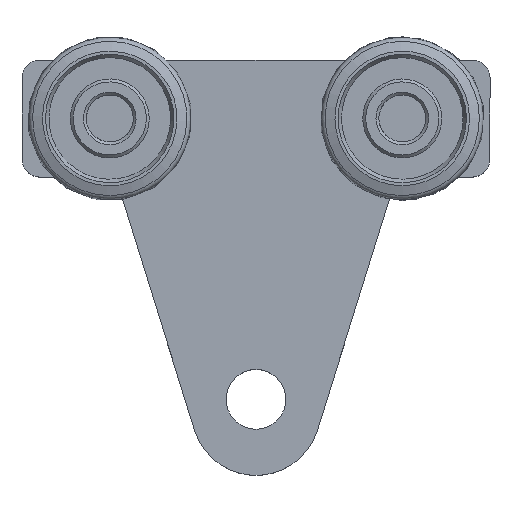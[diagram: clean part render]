
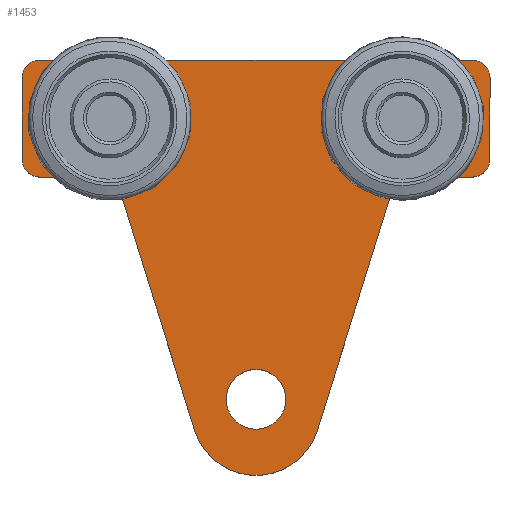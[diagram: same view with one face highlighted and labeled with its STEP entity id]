
A CAD part, top view. The second image highlights one B-rep face of the part: STEP entity #1453.
In plain terms, the highlighted planar face has unit normal (0, 0, 1).
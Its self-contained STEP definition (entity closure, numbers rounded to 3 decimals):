
#115=PLANE('',#1570);
#155=LINE('',#2161,#265);
#159=LINE('',#2172,#269);
#161=LINE('',#2177,#271);
#166=LINE('',#2191,#276);
#171=LINE('',#2209,#281);
#175=LINE('',#2221,#285);
#179=LINE('',#2233,#289);
#183=LINE('',#2245,#293);
#187=LINE('',#2257,#297);
#191=LINE('',#2269,#301);
#195=LINE('',#2280,#305);
#265=VECTOR('',#1710,2.222);
#269=VECTOR('',#1722,2.222);
#271=VECTOR('',#1726,2.222);
#276=VECTOR('',#1739,2.222);
#281=VECTOR('',#1758,10.061);
#285=VECTOR('',#1770,42.388);
#289=VECTOR('',#1782,42.388);
#293=VECTOR('',#1794,10.061);
#297=VECTOR('',#1806,14.);
#301=VECTOR('',#1818,74.);
#305=VECTOR('',#1830,14.);
#377=FACE_BOUND('',#519,.T.);
#378=FACE_BOUND('',#520,.T.);
#379=FACE_BOUND('',#521,.T.);
#426=FACE_OUTER_BOUND('',#518,.T.);
#518=EDGE_LOOP('',(#1129,#1130,#1131,#1132,#1133,#1134,#1135,#1136,#1137,
#1138,#1139,#1140,#1141,#1142));
#519=EDGE_LOOP('',(#1143));
#520=EDGE_LOOP('',(#1144,#1145,#1146,#1147));
#521=EDGE_LOOP('',(#1148,#1149,#1150,#1151));
#608=CIRCLE('',#1524,5.1);
#609=CIRCLE('',#1526,4.15);
#611=CIRCLE('',#1530,6.1);
#613=CIRCLE('',#1535,6.1);
#615=CIRCLE('',#1539,4.15);
#617=CIRCLE('',#1542,3.);
#619=CIRCLE('',#1546,4.);
#621=CIRCLE('',#1550,11.);
#623=CIRCLE('',#1554,4.);
#625=CIRCLE('',#1558,3.);
#627=CIRCLE('',#1562,3.);
#629=CIRCLE('',#1566,3.);
#682=VERTEX_POINT('',#2148);
#683=VERTEX_POINT('',#2151);
#684=VERTEX_POINT('',#2152);
#687=VERTEX_POINT('',#2160);
#689=VERTEX_POINT('',#2166);
#691=VERTEX_POINT('',#2175);
#692=VERTEX_POINT('',#2176);
#695=VERTEX_POINT('',#2184);
#697=VERTEX_POINT('',#2190);
#699=VERTEX_POINT('',#2199);
#700=VERTEX_POINT('',#2200);
#703=VERTEX_POINT('',#2208);
#705=VERTEX_POINT('',#2214);
#707=VERTEX_POINT('',#2220);
#709=VERTEX_POINT('',#2226);
#711=VERTEX_POINT('',#2232);
#713=VERTEX_POINT('',#2238);
#715=VERTEX_POINT('',#2244);
#717=VERTEX_POINT('',#2250);
#719=VERTEX_POINT('',#2256);
#721=VERTEX_POINT('',#2262);
#723=VERTEX_POINT('',#2268);
#725=VERTEX_POINT('',#2274);
#820=EDGE_CURVE('',#682,#682,#608,.T.);
#821=EDGE_CURVE('',#683,#684,#609,.T.);
#825=EDGE_CURVE('',#684,#687,#155,.T.);
#828=EDGE_CURVE('',#687,#689,#611,.T.);
#831=EDGE_CURVE('',#689,#683,#159,.T.);
#833=EDGE_CURVE('',#691,#692,#161,.T.);
#837=EDGE_CURVE('',#692,#695,#613,.T.);
#840=EDGE_CURVE('',#695,#697,#166,.T.);
#843=EDGE_CURVE('',#697,#691,#615,.T.);
#845=EDGE_CURVE('',#699,#700,#617,.T.);
#849=EDGE_CURVE('',#700,#703,#171,.T.);
#852=EDGE_CURVE('',#703,#705,#619,.T.);
#855=EDGE_CURVE('',#705,#707,#175,.T.);
#858=EDGE_CURVE('',#707,#709,#621,.T.);
#861=EDGE_CURVE('',#709,#711,#179,.T.);
#864=EDGE_CURVE('',#711,#713,#623,.T.);
#867=EDGE_CURVE('',#713,#715,#183,.T.);
#870=EDGE_CURVE('',#715,#717,#625,.T.);
#873=EDGE_CURVE('',#717,#719,#187,.T.);
#876=EDGE_CURVE('',#719,#721,#627,.T.);
#879=EDGE_CURVE('',#721,#723,#191,.T.);
#882=EDGE_CURVE('',#723,#725,#629,.T.);
#885=EDGE_CURVE('',#725,#699,#195,.T.);
#1129=ORIENTED_EDGE('',*,*,#845,.F.);
#1130=ORIENTED_EDGE('',*,*,#885,.F.);
#1131=ORIENTED_EDGE('',*,*,#882,.F.);
#1132=ORIENTED_EDGE('',*,*,#879,.F.);
#1133=ORIENTED_EDGE('',*,*,#876,.F.);
#1134=ORIENTED_EDGE('',*,*,#873,.F.);
#1135=ORIENTED_EDGE('',*,*,#870,.F.);
#1136=ORIENTED_EDGE('',*,*,#867,.F.);
#1137=ORIENTED_EDGE('',*,*,#864,.F.);
#1138=ORIENTED_EDGE('',*,*,#861,.F.);
#1139=ORIENTED_EDGE('',*,*,#858,.F.);
#1140=ORIENTED_EDGE('',*,*,#855,.F.);
#1141=ORIENTED_EDGE('',*,*,#852,.F.);
#1142=ORIENTED_EDGE('',*,*,#849,.F.);
#1143=ORIENTED_EDGE('',*,*,#820,.T.);
#1144=ORIENTED_EDGE('',*,*,#821,.T.);
#1145=ORIENTED_EDGE('',*,*,#825,.T.);
#1146=ORIENTED_EDGE('',*,*,#828,.T.);
#1147=ORIENTED_EDGE('',*,*,#831,.T.);
#1148=ORIENTED_EDGE('',*,*,#833,.T.);
#1149=ORIENTED_EDGE('',*,*,#837,.T.);
#1150=ORIENTED_EDGE('',*,*,#840,.T.);
#1151=ORIENTED_EDGE('',*,*,#843,.T.);
#1453=ADVANCED_FACE('',(#426,#377,#378,#379),#115,.T.);
#1524=AXIS2_PLACEMENT_3D('',#2149,#1698,#1699);
#1526=AXIS2_PLACEMENT_3D('',#2153,#1702,#1703);
#1530=AXIS2_PLACEMENT_3D('',#2167,#1715,#1716);
#1535=AXIS2_PLACEMENT_3D('',#2185,#1732,#1733);
#1539=AXIS2_PLACEMENT_3D('',#2196,#1744,#1745);
#1542=AXIS2_PLACEMENT_3D('',#2201,#1750,#1751);
#1546=AXIS2_PLACEMENT_3D('',#2215,#1763,#1764);
#1550=AXIS2_PLACEMENT_3D('',#2227,#1775,#1776);
#1554=AXIS2_PLACEMENT_3D('',#2239,#1787,#1788);
#1558=AXIS2_PLACEMENT_3D('',#2251,#1799,#1800);
#1562=AXIS2_PLACEMENT_3D('',#2263,#1811,#1812);
#1566=AXIS2_PLACEMENT_3D('',#2275,#1823,#1824);
#1570=AXIS2_PLACEMENT_3D('',#2283,#1834,#1835);
#1698=DIRECTION('center_axis',(0.,0.,-1.));
#1699=DIRECTION('ref_axis',(1.,0.,0.));
#1702=DIRECTION('center_axis',(0.,0.,-1.));
#1703=DIRECTION('ref_axis',(-0.81,0.587,0.));
#1710=DIRECTION('',(-0.866,0.5,0.));
#1715=DIRECTION('center_axis',(0.,0.,-1.));
#1716=DIRECTION('ref_axis',(0.866,0.499,0.));
#1722=DIRECTION('',(-0.866,-0.5,0.));
#1726=DIRECTION('',(-0.866,0.5,0.));
#1732=DIRECTION('center_axis',(0.,0.,-1.));
#1733=DIRECTION('ref_axis',(-0.866,-0.499,0.));
#1739=DIRECTION('',(-0.866,-0.5,0.));
#1744=DIRECTION('center_axis',(0.,0.,-1.));
#1745=DIRECTION('ref_axis',(0.81,-0.587,0.));
#1750=DIRECTION('center_axis',(0.,0.,-1.));
#1751=DIRECTION('ref_axis',(0.,1.,0.));
#1758=DIRECTION('',(1.,0.,0.));
#1763=DIRECTION('center_axis',(0.,0.,1.));
#1764=DIRECTION('ref_axis',(0.,1.,0.));
#1770=DIRECTION('',(0.298,0.955,0.));
#1775=DIRECTION('center_axis',(0.,0.,-1.));
#1776=DIRECTION('ref_axis',(0.955,0.298,0.));
#1782=DIRECTION('',(0.298,-0.955,0.));
#1787=DIRECTION('center_axis',(0.,0.,1.));
#1788=DIRECTION('ref_axis',(0.955,0.298,0.));
#1794=DIRECTION('',(1.,0.,0.));
#1799=DIRECTION('center_axis',(0.,0.,-1.));
#1800=DIRECTION('ref_axis',(1.,0.,0.));
#1806=DIRECTION('',(0.,-1.,0.));
#1811=DIRECTION('center_axis',(0.,0.,-1.));
#1812=DIRECTION('ref_axis',(0.,-1.,0.));
#1818=DIRECTION('',(-1.,0.,0.));
#1823=DIRECTION('center_axis',(0.,0.,-1.));
#1824=DIRECTION('ref_axis',(-1.,0.,0.));
#1830=DIRECTION('',(0.,1.,0.));
#1834=DIRECTION('center_axis',(0.,0.,1.));
#1835=DIRECTION('ref_axis',(1.,0.,0.));
#2148=CARTESIAN_POINT('',(5.1,48.,5.));
#2149=CARTESIAN_POINT('Origin',(0.,48.,5.));
#2151=CARTESIAN_POINT('',(28.361,2.435,5.));
#2152=CARTESIAN_POINT('',(21.639,2.435,5.));
#2153=CARTESIAN_POINT('Origin',(25.,0.,5.));
#2160=CARTESIAN_POINT('',(19.715,3.546,5.));
#2161=CARTESIAN_POINT('',(10.78,8.705,5.));
#2166=CARTESIAN_POINT('',(30.285,3.546,5.));
#2167=CARTESIAN_POINT('Origin',(25.,0.5,5.));
#2172=CARTESIAN_POINT('',(21.432,-1.565,5.));
#2175=CARTESIAN_POINT('',(-28.361,2.435,5.));
#2176=CARTESIAN_POINT('',(-30.285,3.546,5.));
#2177=CARTESIAN_POINT('',(-20.47,-2.12,5.));
#2184=CARTESIAN_POINT('',(-19.715,3.546,5.));
#2185=CARTESIAN_POINT('Origin',(-25.,0.5,5.));
#2190=CARTESIAN_POINT('',(-21.639,2.435,5.));
#2191=CARTESIAN_POINT('',(-9.818,9.26,5.));
#2196=CARTESIAN_POINT('Origin',(-25.,0.,5.));
#2199=CARTESIAN_POINT('',(-40.,7.,5.));
#2200=CARTESIAN_POINT('',(-37.,10.,5.));
#2201=CARTESIAN_POINT('Origin',(-37.,7.,5.));
#2208=CARTESIAN_POINT('',(-26.939,10.,5.));
#2209=CARTESIAN_POINT('',(-26.939,10.,5.));
#2214=CARTESIAN_POINT('',(-23.12,12.809,5.));
#2215=CARTESIAN_POINT('Origin',(-26.939,14.,5.));
#2220=CARTESIAN_POINT('',(-10.501,53.275,5.));
#2221=CARTESIAN_POINT('',(-10.501,53.275,5.));
#2226=CARTESIAN_POINT('',(10.501,53.275,5.));
#2227=CARTESIAN_POINT('Origin',(0.,50.,5.));
#2232=CARTESIAN_POINT('',(23.12,12.809,5.));
#2233=CARTESIAN_POINT('',(23.12,12.809,5.));
#2238=CARTESIAN_POINT('',(26.939,10.,5.));
#2239=CARTESIAN_POINT('Origin',(26.939,14.,5.));
#2244=CARTESIAN_POINT('',(37.,10.,5.));
#2245=CARTESIAN_POINT('',(37.,10.,5.));
#2250=CARTESIAN_POINT('',(40.,7.,5.));
#2251=CARTESIAN_POINT('Origin',(37.,7.,5.));
#2256=CARTESIAN_POINT('',(40.,-7.,5.));
#2257=CARTESIAN_POINT('',(40.,-7.,5.));
#2262=CARTESIAN_POINT('',(37.,-10.,5.));
#2263=CARTESIAN_POINT('Origin',(37.,-7.,5.));
#2268=CARTESIAN_POINT('',(-37.,-10.,5.));
#2269=CARTESIAN_POINT('',(-37.,-10.,5.));
#2274=CARTESIAN_POINT('',(-40.,-7.,5.));
#2275=CARTESIAN_POINT('Origin',(-37.,-7.,5.));
#2280=CARTESIAN_POINT('',(-40.,7.,5.));
#2283=CARTESIAN_POINT('Origin',(0.,15.113,5.));
